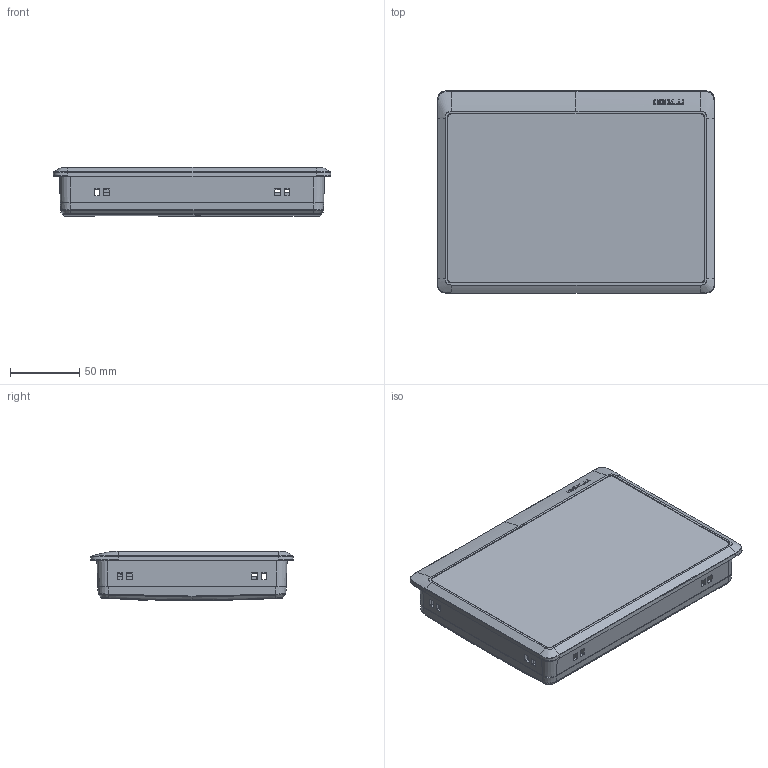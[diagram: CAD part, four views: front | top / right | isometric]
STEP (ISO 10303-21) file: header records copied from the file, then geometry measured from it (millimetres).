
FILE_DESCRIPTION((''),'2;1');
FILE_NAME('000-IT7070E','2020-01-03T',('c2617'),(''),'CREO PARAMETRIC BY PTC INC, 2015290','CREO PARAMETRIC BY PTC INC, 2015290','');
FILE_SCHEMA(('CONFIG_CONTROL_DESIGN'));
Products named in the file (1): 000-IT7070E
Bounding box: 200 x 146 x 35.35 mm (x, y, z)
Volume: 647684.8 mm3; surface area: 188649.3 mm2
Topology: 1 solids, 3 shells, 3954 faces, 11050 edges, 7210 vertices
Faces by surface type: plane 2410, cylinder 855, bspline 467, cone 106, extrusion 50, torus 34, sphere 32
Entity records: 173983 total; most frequent: CARTESIAN_POINT 50784, ORIENTED_EDGE 22058, DIRECTION 17714, EDGE_CURVE 11029, VECTOR 7270, LINE 7220, VERTEX_POINT 7210, AXIS2_PLACEMENT_3D 5222
